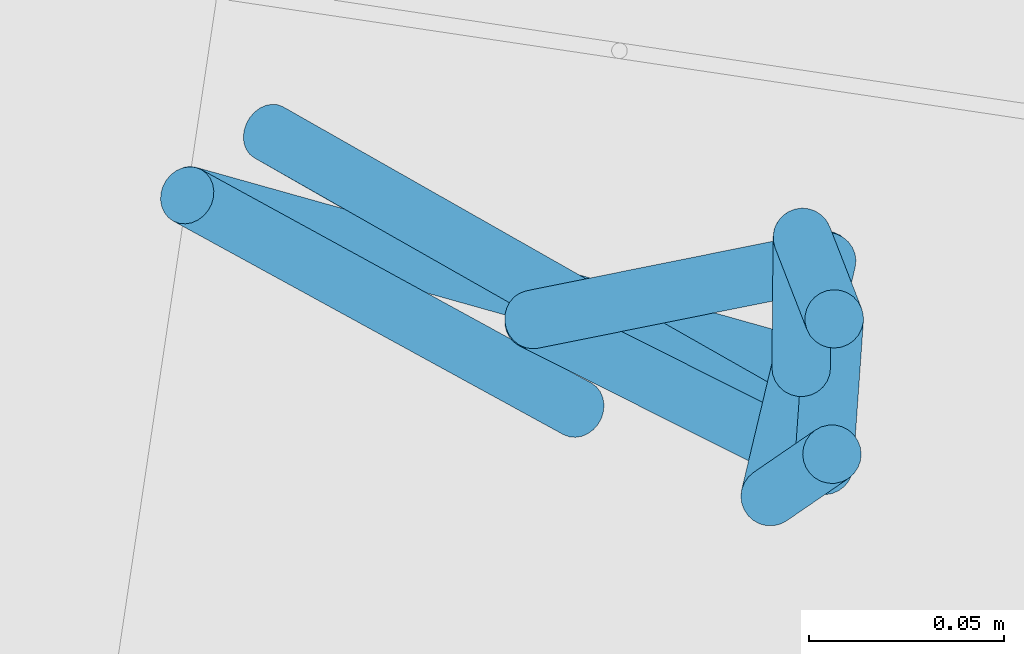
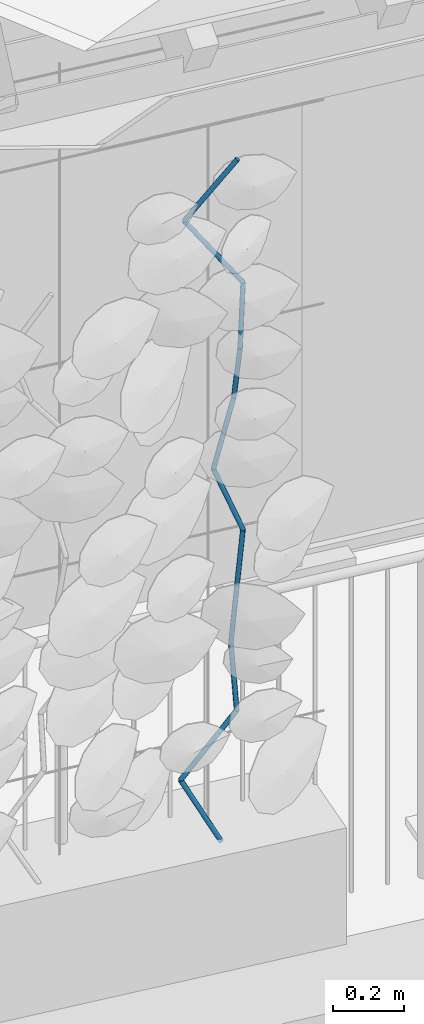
# One storey, part 111 of 131: 11 members, 1 element without a shape of its own.
"""IFC4 building model written with IfcOpenShell, lengths in metres."""

from ifc_helpers import new_model, si_unit, direction, frame, origin_with_axes, place, context, subcontext, project, spatial, circle, extrude, material, material_profile, profile_set, profile_usage, type_object, element, aggregate, save


model = new_model("IFC4")

# Units and contexts
model_context = context("Model", 3, precision=1e-05, world=origin_with_axes(), true_north=direction((0.0, 1.0)))
body_context = subcontext(model_context, "Body", "Model", "MODEL_VIEW")
ifc_project = project(units=[si_unit("VOLUMEUNIT", "CUBIC_METRE"), si_unit("LENGTHUNIT", "METRE"), si_unit("AREAUNIT", "SQUARE_METRE")], contexts=[model_context])

# Site, building, storey
site_placement = place(None, origin_with_axes())
site = spatial("IfcSite", under=ifc_project, at=site_placement, Name="Lares · Rua das Mercês · artigo 4771")
building_placement = place(site_placement, frame((15.0, 9.7, 14.65), z_axis=(0.0, 0.0, 1.0), x_axis=(0.989015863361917, -0.147809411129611, 0.0)))
building = spatial("IfcBuilding", under=site, at=building_placement, Name="Casa Sobreposta")
storey_placement = place(building_placement, origin_with_axes())
storey = spatial("IfcBuildingStorey", under=building, at=storey_placement, Name="00 · Habitação e estacionamento", Elevation=14.65)

# Assembly, members
assembly_placement = place(storey_placement, origin_with_axes())
assembly = element("IfcElementAssembly", 1, at=assembly_placement, inside=storey, Name="Fachada sul e pátio · estrutura e trepadeiras", ObjectType="LIVING_SHADE_TRELLIS", PredefinedType="USERDEFINED")
ifc_material = material(Name="Ramos de trepadeiras", Category="wood")
ifc_material_profile = material_profile(ifc_material, circle(Radius=0.0075))
ifc_profile_set = profile_set([ifc_material_profile], Name="D0.015")
ifc_profile_usage_1 = profile_usage(ifc_profile_set)
member_type = type_object("IfcMemberType", Name="D0.015 / vine_wood", PredefinedType="NOTDEFINED", material=ifc_profile_set)
member_1_placement = place(assembly_placement, frame((3.15289188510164, -1.70221202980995, 0.35), z_axis=(-0.444438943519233, 0.163440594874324, 0.880773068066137), x_axis=(0.345147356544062, 0.938548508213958, 0.0)))
member_1 = element("IfcMember", 2, at=member_1_placement, type_object=member_type, material=ifc_profile_usage_1, Name="Trepadeiras · ramo", context=body_context, shape_type="SweptSolid", body=[
    extrude(circle(Radius=0.0075), origin_with_axes(), (0.0, 0.0, 1.0), 0.240310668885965),
])
ifc_profile_usage_2 = profile_usage(ifc_profile_set)
member_2_placement = place(assembly_placement, frame((3.04608846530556, -1.66293551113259, 0.561659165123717), z_axis=(0.605775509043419, -0.0762897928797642, 0.791969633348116), x_axis=(-0.124950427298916, -0.992162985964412, 0.0)))
member_2 = element("IfcMember", 3, at=member_2_placement, type_object=member_type, material=ifc_profile_usage_2, Name="Trepadeiras · ramo", context=body_context, shape_type="SweptSolid", body=[
    extrude(circle(Radius=0.0075), origin_with_axes(), (0.0, 0.0, 1.0), 0.267256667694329),
])
ifc_profile_usage_3 = profile_usage(ifc_profile_set)
member_3_placement = place(assembly_placement, frame((3.20798600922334, -1.68332446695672, 0.773318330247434), z_axis=(-0.0216028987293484, 0.154162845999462, 0.987809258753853), x_axis=(0.990324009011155, 0.138774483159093, 0.0)))
member_3 = element("IfcMember", 4, at=member_3_placement, type_object=member_type, material=ifc_profile_usage_3, Name="Trepadeiras · ramo", context=body_context, shape_type="SweptSolid", body=[
    extrude(circle(Radius=0.0075), origin_with_axes(), (0.0, 0.0, 1.0), 0.214271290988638),
])
ifc_profile_usage_4 = profile_usage(ifc_profile_set)
member_4_placement = place(assembly_placement, frame((3.20335712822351, -1.65029179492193, 0.984977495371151), z_axis=(0.0522794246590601, -0.0913685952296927, 0.994443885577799), x_axis=(-0.867961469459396, -0.496631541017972, 0.0)))
member_4 = element("IfcMember", 5, at=member_4_placement, type_object=member_type, material=ifc_profile_usage_4, Name="Trepadeiras · ramo", context=body_context, shape_type="SweptSolid", body=[
    extrude(circle(Radius=0.0075), origin_with_axes(), (0.0, 0.0, 1.0), 0.212841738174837),
])
ifc_profile_usage_5 = profile_usage(ifc_profile_set)
member_5_placement = place(assembly_placement, frame((3.21448437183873, -1.66973884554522, 1.19663666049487), z_axis=(0.0136662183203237, -0.174807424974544, 0.984507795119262), x_axis=(-0.996957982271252, -0.077940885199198, 0.0)))
member_5 = element("IfcMember", 6, at=member_5_placement, type_object=member_type, material=ifc_profile_usage_5, Name="Trepadeiras · ramo", context=body_context, shape_type="SweptSolid", body=[
    extrude(circle(Radius=0.0075), origin_with_axes(), (0.0, 0.0, 1.0), 0.214989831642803),
])
ifc_profile_usage_6 = profile_usage(ifc_profile_set)
member_6_placement = place(assembly_placement, frame((3.21742246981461, -1.7073206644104, 1.40829582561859), z_axis=(-0.348552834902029, 0.114288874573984, 0.930295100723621), x_axis=(0.31157345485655, 0.950222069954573, 0.0)))
member_6 = element("IfcMember", 7, at=member_6_placement, type_object=member_type, material=ifc_profile_usage_6, Name="Trepadeiras · ramo", context=body_context, shape_type="SweptSolid", body=[
    extrude(circle(Radius=0.0075), origin_with_axes(), (0.0, 0.0, 1.0), 0.227518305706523),
])
ifc_profile_usage_7 = profile_usage(ifc_profile_set)
member_7_placement = place(assembly_placement, frame((3.13812031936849, -1.68131785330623, 1.6199549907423), z_axis=(0.320866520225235, 0.115973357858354, 0.939997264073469), x_axis=(0.339916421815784, -0.940455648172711, 0.0)))
member_7 = element("IfcMember", 8, at=member_7_placement, type_object=member_type, material=ifc_profile_usage_7, Name="Trepadeiras · ramo", context=body_context, shape_type="SweptSolid", body=[
    extrude(circle(Radius=0.0075), origin_with_axes(), (0.0, 0.0, 1.0), 0.225169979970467),
])
ifc_profile_usage_8 = profile_usage(ifc_profile_set)
member_8_placement = place(assembly_placement, frame((3.2103698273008, -1.65520413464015, 1.83161415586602), z_axis=(-0.0243191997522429, -0.280679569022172, 0.959493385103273), x_axis=(-0.996267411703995, 0.0863205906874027, 2.95397876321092e-18)))
member_8 = element("IfcMember", 9, at=member_8_placement, type_object=member_type, material=ifc_profile_usage_8, Name="Trepadeiras · ramo", context=body_context, shape_type="SweptSolid", body=[
    extrude(circle(Radius=0.0075), origin_with_axes(), (0.0, 0.0, 1.0), 0.22059471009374),
])
ifc_profile_usage_9 = profile_usage(ifc_profile_set)
member_9_placement = place(assembly_placement, frame((3.20500514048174, -1.71712056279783, 2.04327332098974), z_axis=(0.066014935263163, 0.0614364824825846, 0.995925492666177), x_axis=(0.681265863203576, -0.732036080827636, 0.0)))
member_9 = element("IfcMember", 10, at=member_9_placement, type_object=member_type, material=ifc_profile_usage_9, Name="Trepadeiras · ramo", context=body_context, shape_type="SweptSolid", body=[
    extrude(circle(Radius=0.0075), origin_with_axes(), (0.0, 0.0, 1.0), 0.212525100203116),
])
ifc_profile_usage_10 = profile_usage(ifc_profile_set)
member_10_placement = place(assembly_placement, frame((3.21903497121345, -1.7040637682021, 2.25493248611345), z_axis=(-0.575178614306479, 0.223607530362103, 0.786873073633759), x_axis=(0.362343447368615, 0.93204464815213, 0.0)))
member_10 = element("IfcMember", 11, at=member_10_placement, type_object=member_type, material=ifc_profile_usage_10, Name="Trepadeiras · ramo", context=body_context, shape_type="SweptSolid", body=[
    extrude(circle(Radius=0.0075), origin_with_axes(), (0.0, 0.0, 1.0), 0.268987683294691),
])
ifc_profile_usage_11 = profile_usage(ifc_profile_set)
member_11_placement = place(assembly_placement, frame((3.0643190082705, -1.64391609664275, 2.46659165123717), z_axis=(0.540255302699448, -0.208302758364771, 0.815312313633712), x_axis=(-0.359749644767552, -0.933048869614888, 0.0)))
member_11 = element("IfcMember", 12, at=member_11_placement, type_object=member_type, material=ifc_profile_usage_11, Name="Trepadeiras · ramo", context=body_context, shape_type="SweptSolid", body=[
    extrude(circle(Radius=0.0075), origin_with_axes(), (0.0, 0.0, 1.0), 0.259605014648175),
])
aggregate(assembly, [member_1, member_2, member_3, member_4, member_5, member_6, member_7, member_8, member_9, member_10, member_11])

save(model, "model.ifc")
